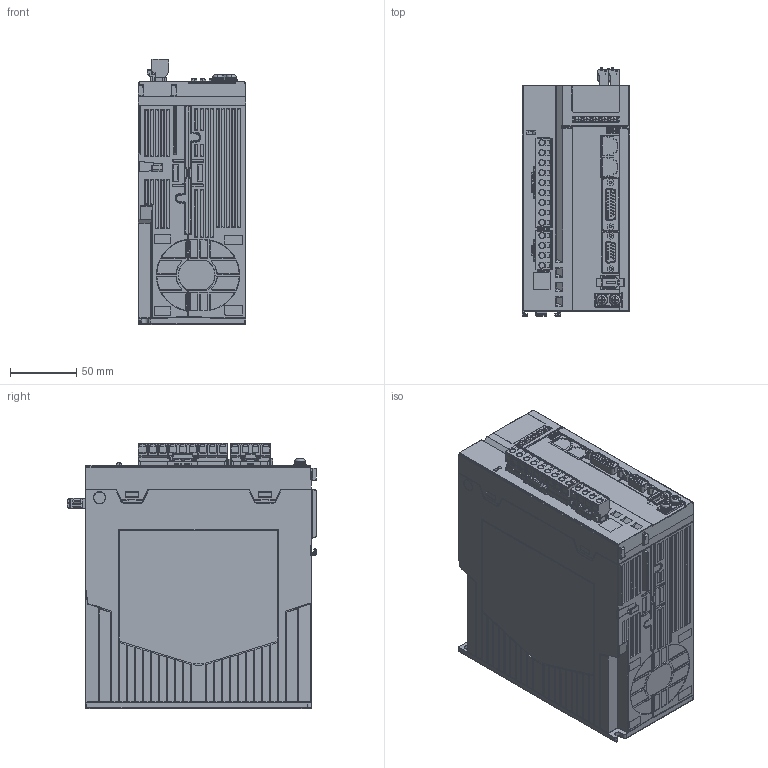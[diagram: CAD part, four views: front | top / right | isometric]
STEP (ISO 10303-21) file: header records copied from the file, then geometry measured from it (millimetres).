
FILE_DESCRIPTION((''),'2;1');
FILE_NAME('SV670-INT-SIZE-D_ASM','2024-02-03T',('10009991'),(''),'CREO PARAMETRIC BY PTC INC, 2015290','CREO PARAMETRIC BY PTC INC, 2015290','');
FILE_SCHEMA(('AUTOMOTIVE_DESIGN { 1 0 10303 214 1 1 1 1 }'));
Products named in the file (7): SV670-INT-SIZE-D; SV670-INT-SIZE-D-D_ASM; 9EDGK-7_5-04P_20180409_3_3; 9EDGK-7_5-09P_20180409_3_3; DZ1_ASM_3_ASM_2_ASM; PXC_1707854_01_FMCD-4PIN_2_2; SV670-INT-SIZE-D_ASM
Assembly tree (6 placements, depth 3):
  SV670-INT-SIZE-D_ASM
    SV670-INT-SIZE-D-D_ASM
      SV670-INT-SIZE-D
    DZ1_ASM_3_ASM_2_ASM
      9EDGK-7_5-04P_20180409_3_3
      9EDGK-7_5-09P_20180409_3_3
    PXC_1707854_01_FMCD-4PIN_2_2
Bounding box: 81 x 187.8 x 199.5 mm (x, y, z)
Volume: 23834.2 mm3; surface area: 144012.9 mm2
Topology: 4 solids, 5 shells, 5565 faces, 14974 edges, 9562 vertices
Faces by surface type: plane 3532, cylinder 1407, bspline 230, torus 139, sphere 109, cone 78, extrusion 70
Entity records: 251595 total; most frequent: CARTESIAN_POINT 66799, ORIENTED_EDGE 29658, DIRECTION 26492, PRESENTATION_STYLE_ASSIGNMENT 15207, STYLED_ITEM 14843, CURVE_STYLE 14838, EDGE_CURVE 14838, VECTOR 10892
